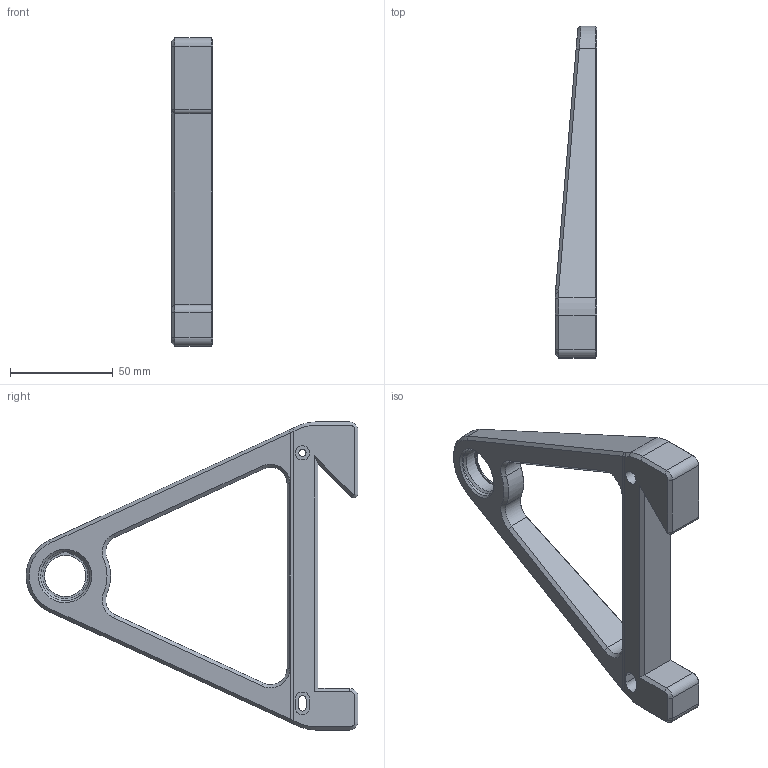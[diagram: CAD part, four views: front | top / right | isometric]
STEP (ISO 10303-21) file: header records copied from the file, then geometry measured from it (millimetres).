
FILE_DESCRIPTION(/* description */ ('STEP AP242','CAx-IF Rec.Pracs.---Representation and Presentation of Product Manufacturing Information (PMI)---4.0---2014-10-13','CAx-IF Rec.Pracs.---3D Tessellated Geometry---0.4---2014-09-14','2;1'),/* implementation_level */ '2;1');
FILE_NAME(/* name */ '677337702bfa937472ae4c2d',/* time_stamp */ '2024-12-31T00:14:40Z',/* author */ (''),/* organization */ (''),/* preprocessor_version */ 'ST-DEVELOPER v20',/* originating_system */ 'ONSHAPE BY PTC INC, 1.191',/* authorisation */ ' ');
FILE_SCHEMA (('AP242_MANAGED_MODEL_BASED_3D_ENGINEERING_MIM_LF { 1 0 10303 442 1 1 4 }'));
Length unit declared in the file: metre
Products named in the file (1): Part 2
Bounding box: 20 x 161.55 x 150 mm (x, y, z)
Volume: 108018.4 mm3; surface area: 30832.6 mm2
Topology: 1 solids, 1 shells, 119 faces, 271 edges, 159 vertices
Faces by surface type: plane 58, cylinder 27, cone 25, bspline 9
Full cylindrical faces by diameter (mm): 3.5 x1, 6.5 x1, 7 x1, 12.8 x2, 20.1 x1, 24.1 x1
Entity records: 3547 total; most frequent: CARTESIAN_POINT 980, DIRECTION 512, ORIENTED_EDGE 508, EDGE_CURVE 254, AXIS2_PLACEMENT_3D 179, LINE 154, VECTOR 154, VERTEX_POINT 154
